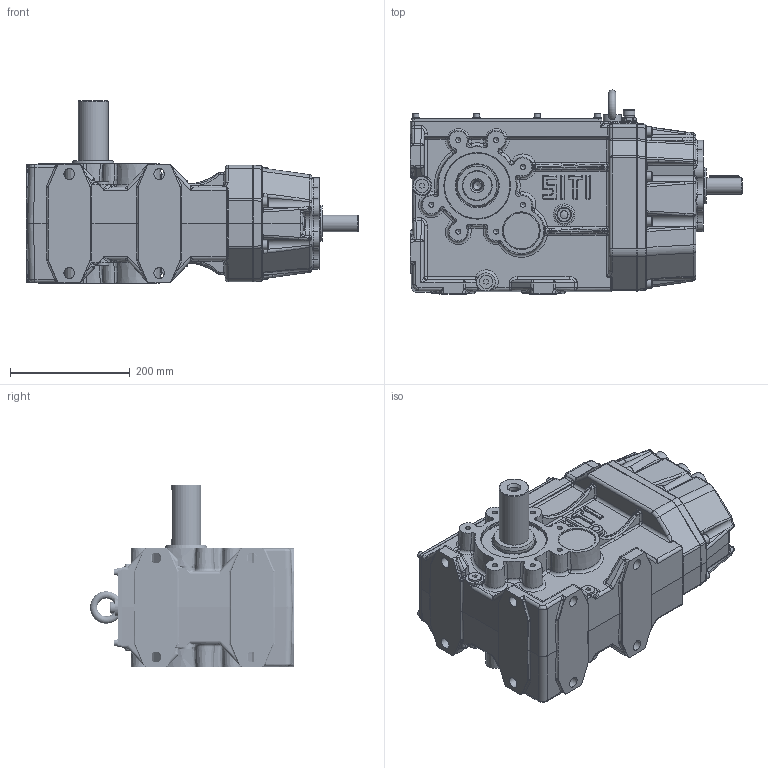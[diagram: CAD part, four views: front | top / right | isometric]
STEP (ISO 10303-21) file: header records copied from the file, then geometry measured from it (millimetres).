
FILE_DESCRIPTION((''),'2;1');
FILE_NAME('C:\Users\m.piscopiello.SITIRIDUTTORI\Desktop\3D x SITO\BH 100\BH 100 MS-B.stp','2013-05-02T11:41:23',('m.piscopiello'),(''),'Autodesk Inventor 2012','Autodesk Inventor 2012','');
FILE_SCHEMA(('CONFIG_CONTROL_DESIGN'));
Length unit declared in the file: millimetre
Products named in the file (1): BH 100 MS-B
Bounding box: 553.5 x 339.97 x 305 mm (x, y, z)
Volume: 7051410.2 mm3; surface area: 1408436.9 mm2
Topology: 45 solids, 50 shells, 3386 faces, 8018 edges, 4742 vertices
Faces by surface type: cylinder 1041, plane 940, bspline 720, torus 299, cone 232, sphere 154
Full cylindrical faces by diameter (mm): 4.917 x8, 5 x1, 6 x17, 6.4 x9, 6.647 x8, 7 x8, 8.376 x22, 10 x20, 10.106 x3, 11 x10, 12 x8, 12.5 x8, 13.835 x1, 14.95 x1, 16 x9, 16.6 x7, 17 x1, 18 x8, 19 x1, 19.5 x1, 20 x1, 28 x1, 30 x4, 37.5 x1, 39.377 x1, 39.977 x2, 50 x1, 52 x1, 54.765 x1, 57 x1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
Entity records: 121308 total; most frequent: CARTESIAN_POINT 45736, DIRECTION 14671, ORIENTED_EDGE 14622, EDGE_CURVE 7311, AXIS2_PLACEMENT_3D 6052, VERTEX_POINT 4572, EDGE_LOOP 4007, STYLED_ITEM 3431
